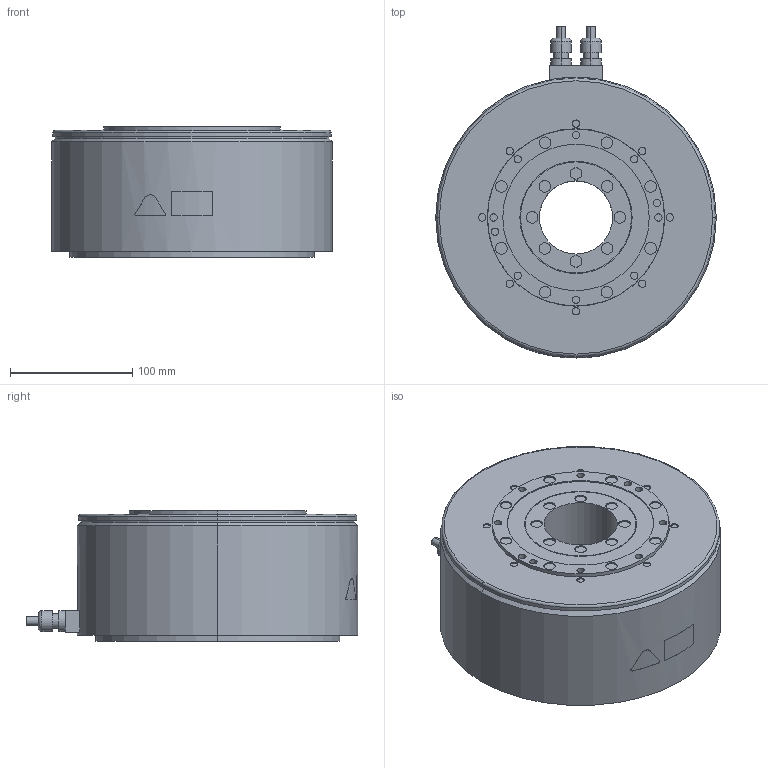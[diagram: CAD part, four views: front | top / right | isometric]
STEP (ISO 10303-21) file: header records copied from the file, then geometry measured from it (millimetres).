
FILE_DESCRIPTION (( 'STEP AP203' ), '1' );
FILE_NAME ('sgm7f_35d_a4_.STEP', '2016-02-25T01:08:31', ( '' ), ( '' ), 'SwSTEP 2.0', 'SolidWorks 2010', '' );
FILE_SCHEMA (( 'CONFIG_CONTROL_DESIGN' ));
Length unit declared in the file: millimetre
Products named in the file (1): sgm7f_35d_a4_
Bounding box: 230 x 272 x 107 mm (x, y, z)
Volume: 4004413.6 mm3; surface area: 186069.1 mm2
Topology: 1 solids, 1 shells, 263 faces, 534 edges, 352 vertices
Faces by surface type: cylinder 160, plane 88, torus 6, bspline 5, cone 4
Entity records: 7473 total; most frequent: CARTESIAN_POINT 1547, DIRECTION 1374, ORIENTED_EDGE 1068, AXIS2_PLACEMENT_3D 597, EDGE_CURVE 534, VERTEX_POINT 352, EDGE_LOOP 344, CIRCLE 338
